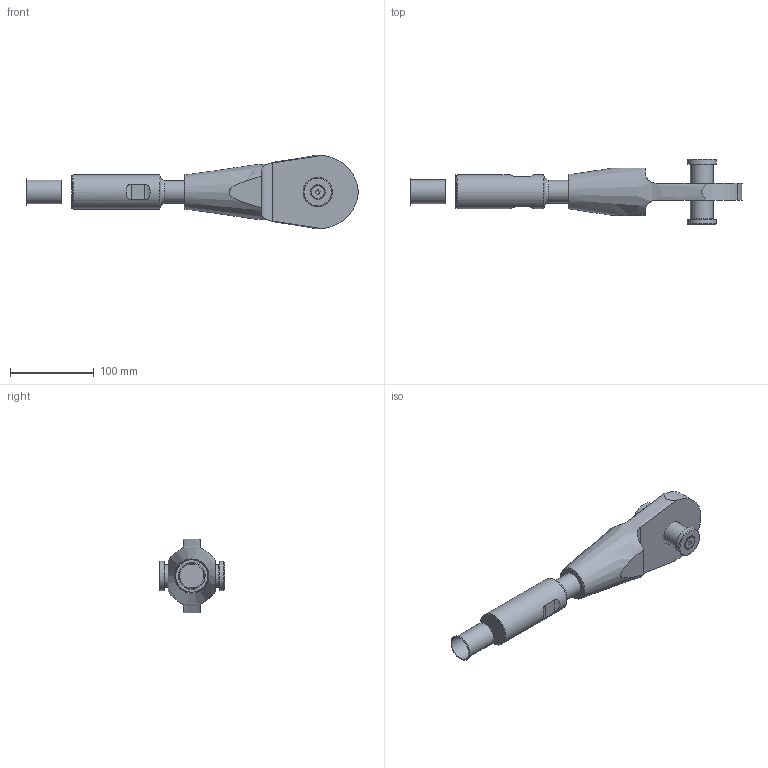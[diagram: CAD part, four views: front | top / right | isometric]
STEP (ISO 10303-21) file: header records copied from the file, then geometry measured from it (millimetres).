
FILE_DESCRIPTION(/* description */ (''),/* implementation_level */ '2;1');
FILE_NAME(/* name */ 'C:\Vault_WS\Designs\SB\01-PX\Verzinkt\ZSS\520 - Zusambau-OES-ADA\520-027-OES-ADA.stp',/* time_stamp */ '2020-10-07T15:34:46+02:00',/* author */ ('schwarz'),/* organization */ (''),/* preprocessor_version */ 'ST-DEVELOPER v18.1',/* originating_system */ 'Autodesk Inventor 2020',/* authorisation */ '');
FILE_SCHEMA (('AUTOMOTIVE_DESIGN { 1 0 10303 214 3 1 1 }'));
Length unit declared in the file: millimetre
Products named in the file (1): 117458
Bounding box: 395.38 x 78.51 x 88.03 mm (x, y, z)
Volume: 634206.2 mm3; surface area: 87808.5 mm2
Topology: 6 solids, 6 shells, 63 faces, 152 edges, 106 vertices
Faces by surface type: plane 28, cylinder 20, cone 13, torus 2
Full cylindrical faces by diameter (mm): 6.647 x1, 8 x1, 9 x1, 15.24 x1, 27 x2, 28.5 x1, 30 x1, 35 x2, 40.5 x1
Entity records: 2157 total; most frequent: CARTESIAN_POINT 532, DIRECTION 316, ORIENTED_EDGE 300, EDGE_CURVE 150, AXIS2_PLACEMENT_3D 132, VERTEX_POINT 106, EDGE_LOOP 74, STYLED_ITEM 69
